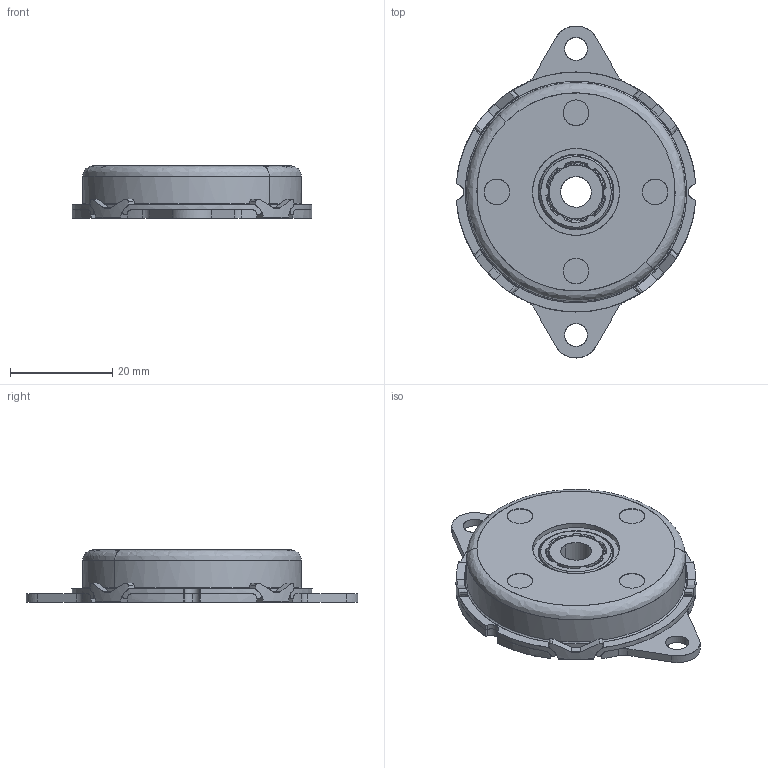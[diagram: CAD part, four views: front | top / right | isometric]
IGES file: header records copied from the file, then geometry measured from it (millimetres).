
Start section: SolidWorks IGES file using analytic representation for surfaces
Bounding box: 46.89 x 65 x 10.2 mm (x, y, z)
Surface area: 8507.5 mm2 (no closed solid volume)
Topology: 0 solids, 0 shells, 258 faces, 3630 edges, 3617 vertices
Faces by surface type: bspline 207, revolution 51
